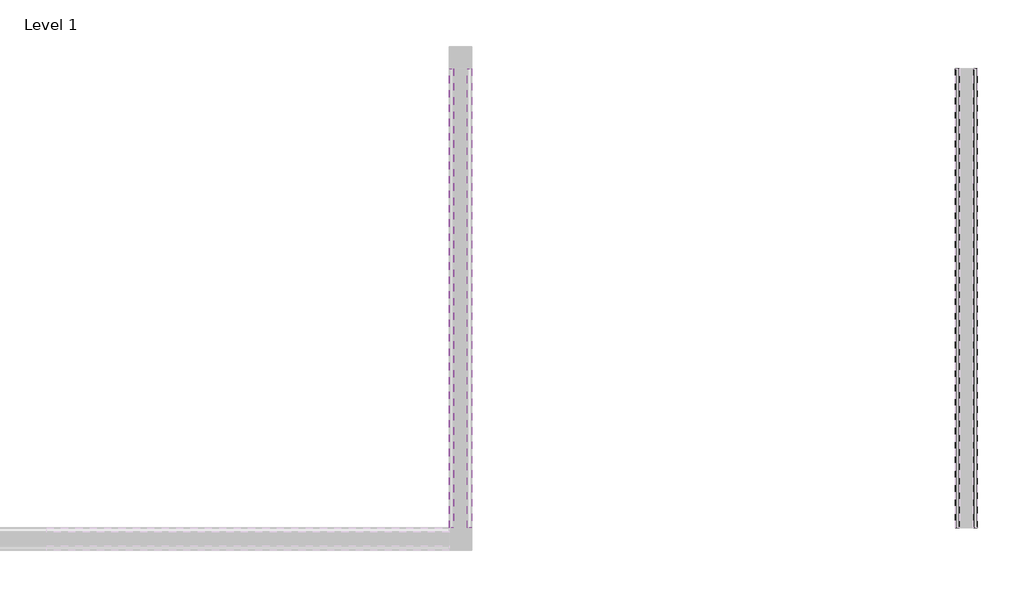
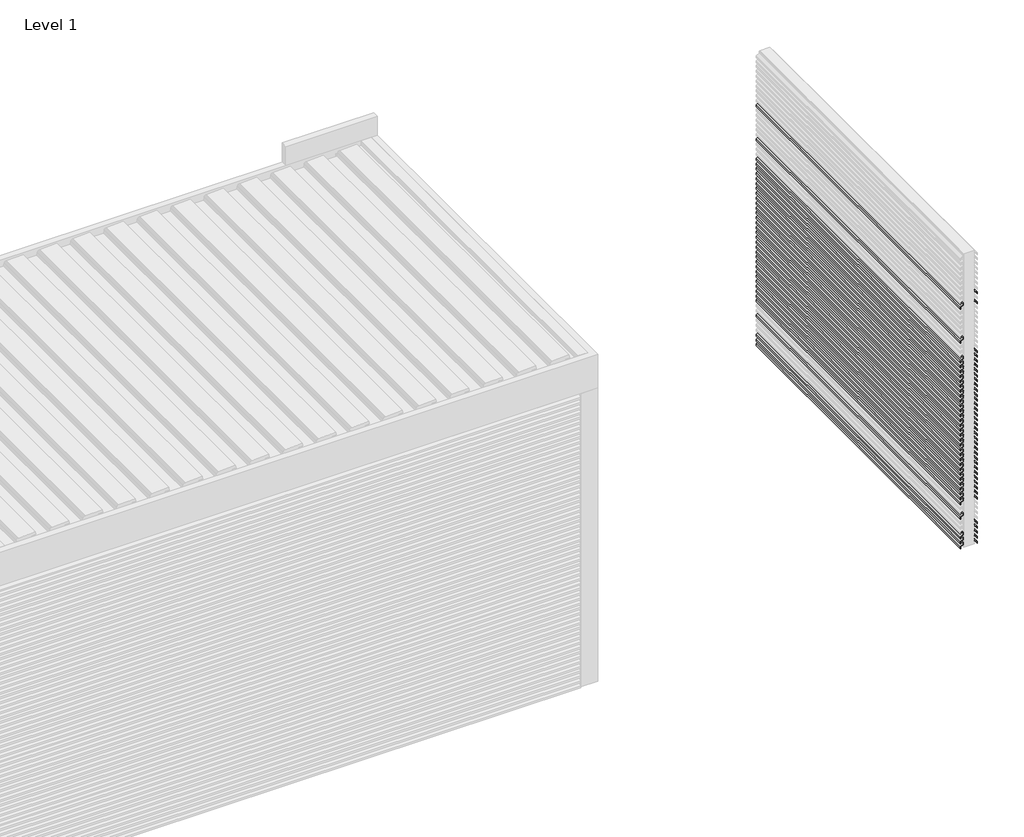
# One storey, part 44 of 47: 86 proxies.
"""IFC4 building model written with IfcOpenShell, lengths in millimetres."""

from ifc_helpers import new_model, si_unit, frame, origin, place, context, project, spatial, polyline, outline, extrude, element, save

model = new_model("IFC4")

# Units and contexts
model_context = context("Model", 3, world=origin())
ifc_project = project(units=[si_unit("LENGTHUNIT", "METRE", prefix="MILLI")], contexts=[model_context])

# Site, building, storey
site = spatial("IfcSite", under=ifc_project)
building = spatial("IfcBuilding", under=site)
storey = spatial("IfcBuildingStorey", under=building, Name="Level 1", Elevation=0.0)

# Proxies
placement = place(None, origin())
element("IfcBuildingElementProxy", 1, Name="Wall Sweeps", at=placement, inside=storey, context=model_context, shape_type="SweptSolid", body=[
    extrude(outline(polyline([(309.3, 211574.3971432), (295.8, 211574.3971432), (296.5216933, 211575.6471432), (308.5782281, 211575.6471432), (319.6345698, 211594.7971432), (333.3, 211594.7971432), (333.3, 211593.5471432), (320.3562577, 211593.5471432), (309.3, 211574.3971432)])), frame((0.0, 39632.1593685, 0.0), z_axis=(0.0, 1.0, 0.0), x_axis=(0.0, 0.0, 1.0)), (0.0, 0.0, 1.0), 2280.0),
])
element("IfcBuildingElementProxy", 2, Name="Wall Sweeps", at=placement, inside=storey, context=model_context, shape_type="SweptSolid", body=[
    extrude(outline(polyline([(741.9, 211684.3971432), (752.9562577, 211665.2471432), (765.9, 211665.2471432), (765.9, 211663.9971432), (752.2345698, 211663.9971432), (741.1782281, 211683.1471432), (729.1216933, 211683.1471432), (728.4, 211684.3971432), (741.9, 211684.3971432)])), frame((0.0, 39632.1593685, 0.0), z_axis=(0.0, 1.0, 0.0), x_axis=(0.0, 0.0, 1.0)), (0.0, 0.0, 1.0), 2280.0),
])
element("IfcBuildingElementProxy", 3, Name="Wall Sweeps", at=placement, inside=storey, context=model_context, shape_type="SweptSolid", body=[
    extrude(outline(polyline([(808.5, 211684.3971432), (819.5562577, 211665.2471432), (832.5, 211665.2471432), (832.5, 211663.9971432), (818.8345698, 211663.9971432), (807.7782281, 211683.1471432), (795.7216933, 211683.1471432), (795.0, 211684.3971432), (808.5, 211684.3971432)])), frame((0.0, 39632.1593685, 0.0), z_axis=(0.0, 1.0, 0.0), x_axis=(0.0, 0.0, 1.0)), (0.0, 0.0, 1.0), 2280.0),
])
element("IfcBuildingElementProxy", 4, Name="Wall Sweeps", at=placement, inside=storey, context=model_context, shape_type="SweptSolid", body=[
    extrude(outline(polyline([(875.1, 211684.3971432), (886.1562577, 211665.2471432), (899.1, 211665.2471432), (899.1, 211663.9971432), (885.4345698, 211663.9971432), (874.3782281, 211683.1471432), (862.3216933, 211683.1471432), (861.6, 211684.3971432), (875.1, 211684.3971432)])), frame((0.0, 39632.1593685, 0.0), z_axis=(0.0, 1.0, 0.0), x_axis=(0.0, 0.0, 1.0)), (0.0, 0.0, 1.0), 2280.0),
])
element("IfcBuildingElementProxy", 5, Name="Wall Sweeps", at=placement, inside=storey, context=model_context, shape_type="SweptSolid", body=[
    extrude(outline(polyline([(1075.9, 211574.3971432), (1062.4, 211574.3971432), (1063.1216933, 211575.6471432), (1075.1782281, 211575.6471432), (1086.2345698, 211594.7971432), (1099.9, 211594.7971432), (1099.9, 211593.5471432), (1086.9562577, 211593.5471432), (1075.9, 211574.3971432)])), frame((0.0, 39632.1593685, 0.0), z_axis=(0.0, 1.0, 0.0), x_axis=(0.0, 0.0, 1.0)), (0.0, 0.0, 1.0), 2280.0),
])
element("IfcBuildingElementProxy", 6, Name="Wall Sweeps", at=placement, inside=storey, context=model_context, shape_type="SweptSolid", body=[
    extrude(outline(polyline([(1409.2, 211574.3971432), (1395.7, 211574.3971432), (1396.4216933, 211575.6471432), (1408.4782281, 211575.6471432), (1419.5345698, 211594.7971432), (1433.2, 211594.7971432), (1433.2, 211593.5471432), (1420.2562577, 211593.5471432), (1409.2, 211574.3971432)])), frame((0.0, 39632.1593685, 0.0), z_axis=(0.0, 1.0, 0.0), x_axis=(0.0, 0.0, 1.0)), (0.0, 0.0, 1.0), 2280.0),
])
element("IfcBuildingElementProxy", 7, Name="Wall Sweeps", at=placement, inside=storey, context=model_context, shape_type="SweptSolid", body=[
    extrude(outline(polyline([(1641.0, 211684.3971432), (1652.0562577, 211665.2471432), (1665.0, 211665.2471432), (1665.0, 211663.9971432), (1651.3345698, 211663.9971432), (1640.2782281, 211683.1471432), (1628.2216933, 211683.1471432), (1627.5, 211684.3971432), (1641.0, 211684.3971432)])), frame((0.0, 39632.1593685, 0.0), z_axis=(0.0, 1.0, 0.0), x_axis=(0.0, 0.0, 1.0)), (0.0, 0.0, 1.0), 2280.0),
])
element("IfcBuildingElementProxy", 8, Name="Wall Sweeps", at=placement, inside=storey, context=model_context, shape_type="SweptSolid", body=[
    extrude(outline(polyline([(142.5, 211684.3971432), (153.5562577, 211665.2471432), (166.5, 211665.2471432), (166.5, 211663.9971432), (152.8345698, 211663.9971432), (141.7782281, 211683.1471432), (129.7216933, 211683.1471432), (129.0, 211684.3971432), (142.5, 211684.3971432)])), frame((0.0, 39632.1593685, 0.0), z_axis=(0.0, 1.0, 0.0), x_axis=(0.0, 0.0, 1.0)), (0.0, 0.0, 1.0), 2280.0),
])
element("IfcBuildingElementProxy", 9, Name="Wall Sweeps", at=placement, inside=storey, context=model_context, shape_type="SweptSolid", body=[
    extrude(outline(polyline([(1641.0, 211574.3971432), (1627.5, 211574.3971432), (1628.2216933, 211575.6471432), (1640.2782281, 211575.6471432), (1651.3345698, 211594.7971432), (1665.0, 211594.7971432), (1665.0, 211593.5471432), (1652.0562577, 211593.5471432), (1641.0, 211574.3971432)])), frame((0.0, 39632.1593685, 0.0), z_axis=(0.0, 1.0, 0.0), x_axis=(0.0, 0.0, 1.0)), (0.0, 0.0, 1.0), 2280.0),
])
element("IfcBuildingElementProxy", 10, Name="Wall Sweeps", at=placement, inside=storey, context=model_context, shape_type="SweptSolid", body=[
    extrude(outline(polyline([(1707.6, 211684.3971432), (1718.6562577, 211665.2471432), (1731.6, 211665.2471432), (1731.6, 211663.9971432), (1717.9345698, 211663.9971432), (1706.8782281, 211683.1471432), (1694.8216933, 211683.1471432), (1694.1, 211684.3971432), (1707.6, 211684.3971432)])), frame((0.0, 39632.1593685, 0.0), z_axis=(0.0, 1.0, 0.0), x_axis=(0.0, 0.0, 1.0)), (0.0, 0.0, 1.0), 2280.0),
])
element("IfcBuildingElementProxy", 11, Name="Wall Sweeps", at=placement, inside=storey, context=model_context, shape_type="SweptSolid", body=[
    extrude(outline(polyline([(209.3, 211574.3971432), (195.8, 211574.3971432), (196.5216933, 211575.6471432), (208.5782281, 211575.6471432), (219.6345698, 211594.7971432), (233.3, 211594.7971432), (233.3, 211593.5471432), (220.3562577, 211593.5471432), (209.3, 211574.3971432)])), frame((0.0, 39632.1593685, 0.0), z_axis=(0.0, 1.0, 0.0), x_axis=(0.0, 0.0, 1.0)), (0.0, 0.0, 1.0), 2280.0),
])
element("IfcBuildingElementProxy", 12, Name="Wall Sweeps", at=placement, inside=storey, context=model_context, shape_type="SweptSolid", body=[
    extrude(outline(polyline([(309.0, 211684.3971432), (320.0562577, 211665.2471432), (333.0, 211665.2471432), (333.0, 211663.9971432), (319.3345698, 211663.9971432), (308.2782281, 211683.1471432), (296.2216933, 211683.1471432), (295.5, 211684.3971432), (309.0, 211684.3971432)])), frame((0.0, 39632.1593685, 0.0), z_axis=(0.0, 1.0, 0.0), x_axis=(0.0, 0.0, 1.0)), (0.0, 0.0, 1.0), 2280.0),
])
element("IfcBuildingElementProxy", 13, Name="Wall Sweeps", at=placement, inside=storey, context=model_context, shape_type="SweptSolid", body=[
    extrude(outline(polyline([(9.3, 211684.3971432), (20.3562577, 211665.2471432), (33.3, 211665.2471432), (33.3, 211663.9971432), (19.6345698, 211663.9971432), (8.5782281, 211683.1471432), (-3.4783067, 211683.1471432), (-4.2, 211684.3971432), (9.3, 211684.3971432)])), frame((0.0, 39632.1593685, 0.0), z_axis=(0.0, 1.0, 0.0), x_axis=(0.0, 0.0, 1.0)), (0.0, 0.0, 1.0), 2280.0),
])
element("IfcBuildingElementProxy", 14, Name="Wall Sweeps", at=placement, inside=storey, context=model_context, shape_type="SweptSolid", body=[
    extrude(outline(polyline([(9.3, 211574.3971432), (-4.2, 211574.3971432), (-3.4783067, 211575.6471432), (8.5782281, 211575.6471432), (19.6345698, 211594.7971432), (33.3, 211594.7971432), (33.3, 211593.5471432), (20.3562577, 211593.5471432), (9.3, 211574.3971432)])), frame((0.0, 39632.1593685, 0.0), z_axis=(0.0, 1.0, 0.0), x_axis=(0.0, 0.0, 1.0)), (0.0, 0.0, 1.0), 2280.0),
])
element("IfcBuildingElementProxy", 15, Name="Wall Sweeps", at=placement, inside=storey, context=model_context, shape_type="SweptSolid", body=[
    extrude(outline(polyline([(342.3, 211684.3971432), (353.3562577, 211665.2471432), (366.3, 211665.2471432), (366.3, 211663.9971432), (352.6345698, 211663.9971432), (341.5782281, 211683.1471432), (329.5216933, 211683.1471432), (328.8, 211684.3971432), (342.3, 211684.3971432)])), frame((0.0, 39632.1593685, 0.0), z_axis=(0.0, 1.0, 0.0), x_axis=(0.0, 0.0, 1.0)), (0.0, 0.0, 1.0), 2280.0),
])
element("IfcBuildingElementProxy", 16, Name="Wall Sweeps", at=placement, inside=storey, context=model_context, shape_type="SweptSolid", body=[
    extrude(outline(polyline([(342.6, 211574.3971432), (329.1, 211574.3971432), (329.8216933, 211575.6471432), (341.8782281, 211575.6471432), (352.9345698, 211594.7971432), (366.6, 211594.7971432), (366.6, 211593.5471432), (353.6562577, 211593.5471432), (342.6, 211574.3971432)])), frame((0.0, 39632.1593685, 0.0), z_axis=(0.0, 1.0, 0.0), x_axis=(0.0, 0.0, 1.0)), (0.0, 0.0, 1.0), 2280.0),
])
element("IfcBuildingElementProxy", 17, Name="Wall Sweeps", at=placement, inside=storey, context=model_context, shape_type="SweptSolid", body=[
    extrude(outline(polyline([(375.6, 211684.3971432), (386.6562577, 211665.2471432), (399.6, 211665.2471432), (399.6, 211663.9971432), (385.9345698, 211663.9971432), (374.8782281, 211683.1471432), (362.8216933, 211683.1471432), (362.1, 211684.3971432), (375.6, 211684.3971432)])), frame((0.0, 39632.1593685, 0.0), z_axis=(0.0, 1.0, 0.0), x_axis=(0.0, 0.0, 1.0)), (0.0, 0.0, 1.0), 2280.0),
])
element("IfcBuildingElementProxy", 18, Name="Wall Sweeps", at=placement, inside=storey, context=model_context, shape_type="SweptSolid", body=[
    extrude(outline(polyline([(376.0, 211574.3971432), (362.5, 211574.3971432), (363.2216933, 211575.6471432), (375.2782281, 211575.6471432), (386.3345698, 211594.7971432), (400.0, 211594.7971432), (400.0, 211593.5471432), (387.0562577, 211593.5471432), (376.0, 211574.3971432)])), frame((0.0, 39632.1593685, 0.0), z_axis=(0.0, 1.0, 0.0), x_axis=(0.0, 0.0, 1.0)), (0.0, 0.0, 1.0), 2280.0),
])
element("IfcBuildingElementProxy", 19, Name="Wall Sweeps", at=placement, inside=storey, context=model_context, shape_type="SweptSolid", body=[
    extrude(outline(polyline([(408.9, 211684.3971432), (419.9562577, 211665.2471432), (432.9, 211665.2471432), (432.9, 211663.9971432), (419.2345698, 211663.9971432), (408.1782281, 211683.1471432), (396.1216933, 211683.1471432), (395.4, 211684.3971432), (408.9, 211684.3971432)])), frame((0.0, 39632.1593685, 0.0), z_axis=(0.0, 1.0, 0.0), x_axis=(0.0, 0.0, 1.0)), (0.0, 0.0, 1.0), 2280.0),
])
element("IfcBuildingElementProxy", 20, Name="Wall Sweeps", at=placement, inside=storey, context=model_context, shape_type="SweptSolid", body=[
    extrude(outline(polyline([(409.3, 211574.3971432), (395.8, 211574.3971432), (396.5216933, 211575.6471432), (408.5782281, 211575.6471432), (419.6345698, 211594.7971432), (433.3, 211594.7971432), (433.3, 211593.5471432), (420.3562577, 211593.5471432), (409.3, 211574.3971432)])), frame((0.0, 39632.1593685, 0.0), z_axis=(0.0, 1.0, 0.0), x_axis=(0.0, 0.0, 1.0)), (0.0, 0.0, 1.0), 2280.0),
])
element("IfcBuildingElementProxy", 21, Name="Wall Sweeps", at=placement, inside=storey, context=model_context, shape_type="SweptSolid", body=[
    extrude(outline(polyline([(442.2, 211684.3971432), (453.2562577, 211665.2471432), (466.2, 211665.2471432), (466.2, 211663.9971432), (452.5345698, 211663.9971432), (441.4782281, 211683.1471432), (429.4216933, 211683.1471432), (428.7, 211684.3971432), (442.2, 211684.3971432)])), frame((0.0, 39632.1593685, 0.0), z_axis=(0.0, 1.0, 0.0), x_axis=(0.0, 0.0, 1.0)), (0.0, 0.0, 1.0), 2280.0),
])
element("IfcBuildingElementProxy", 22, Name="Wall Sweeps", at=placement, inside=storey, context=model_context, shape_type="SweptSolid", body=[
    extrude(outline(polyline([(442.6, 211574.3971432), (429.1, 211574.3971432), (429.8216933, 211575.6471432), (441.8782281, 211575.6471432), (452.9345698, 211594.7971432), (466.6, 211594.7971432), (466.6, 211593.5471432), (453.6562577, 211593.5471432), (442.6, 211574.3971432)])), frame((0.0, 39632.1593685, 0.0), z_axis=(0.0, 1.0, 0.0), x_axis=(0.0, 0.0, 1.0)), (0.0, 0.0, 1.0), 2280.0),
])
element("IfcBuildingElementProxy", 23, Name="Wall Sweeps", at=placement, inside=storey, context=model_context, shape_type="SweptSolid", body=[
    extrude(outline(polyline([(475.5, 211684.3971432), (486.5562577, 211665.2471432), (499.5, 211665.2471432), (499.5, 211663.9971432), (485.8345698, 211663.9971432), (474.7782281, 211683.1471432), (462.7216933, 211683.1471432), (462.0, 211684.3971432), (475.5, 211684.3971432)])), frame((0.0, 39632.1593685, 0.0), z_axis=(0.0, 1.0, 0.0), x_axis=(0.0, 0.0, 1.0)), (0.0, 0.0, 1.0), 2280.0),
])
element("IfcBuildingElementProxy", 24, Name="Wall Sweeps", at=placement, inside=storey, context=model_context, shape_type="SweptSolid", body=[
    extrude(outline(polyline([(476.0, 211574.3971432), (462.5, 211574.3971432), (463.2216933, 211575.6471432), (475.2782281, 211575.6471432), (486.3345698, 211594.7971432), (500.0, 211594.7971432), (500.0, 211593.5471432), (487.0562577, 211593.5471432), (476.0, 211574.3971432)])), frame((0.0, 39632.1593685, 0.0), z_axis=(0.0, 1.0, 0.0), x_axis=(0.0, 0.0, 1.0)), (0.0, 0.0, 1.0), 2280.0),
])
element("IfcBuildingElementProxy", 25, Name="Wall Sweeps", at=placement, inside=storey, context=model_context, shape_type="SweptSolid", body=[
    extrude(outline(polyline([(508.8, 211684.3971432), (519.8562577, 211665.2471432), (532.8, 211665.2471432), (532.8, 211663.9971432), (519.1345698, 211663.9971432), (508.0782281, 211683.1471432), (496.0216933, 211683.1471432), (495.3, 211684.3971432), (508.8, 211684.3971432)])), frame((0.0, 39632.1593685, 0.0), z_axis=(0.0, 1.0, 0.0), x_axis=(0.0, 0.0, 1.0)), (0.0, 0.0, 1.0), 2280.0),
])
element("IfcBuildingElementProxy", 26, Name="Wall Sweeps", at=placement, inside=storey, context=model_context, shape_type="SweptSolid", body=[
    extrude(outline(polyline([(509.3, 211574.3971432), (495.8, 211574.3971432), (496.5216933, 211575.6471432), (508.5782281, 211575.6471432), (519.6345698, 211594.7971432), (533.3, 211594.7971432), (533.3, 211593.5471432), (520.3562577, 211593.5471432), (509.3, 211574.3971432)])), frame((0.0, 39632.1593685, 0.0), z_axis=(0.0, 1.0, 0.0), x_axis=(0.0, 0.0, 1.0)), (0.0, 0.0, 1.0), 2280.0),
])
element("IfcBuildingElementProxy", 27, Name="Wall Sweeps", at=placement, inside=storey, context=model_context, shape_type="SweptSolid", body=[
    extrude(outline(polyline([(542.1, 211684.3971432), (553.1562577, 211665.2471432), (566.1, 211665.2471432), (566.1, 211663.9971432), (552.4345698, 211663.9971432), (541.3782281, 211683.1471432), (529.3216933, 211683.1471432), (528.6, 211684.3971432), (542.1, 211684.3971432)])), frame((0.0, 39632.1593685, 0.0), z_axis=(0.0, 1.0, 0.0), x_axis=(0.0, 0.0, 1.0)), (0.0, 0.0, 1.0), 2280.0),
])
element("IfcBuildingElementProxy", 28, Name="Wall Sweeps", at=placement, inside=storey, context=model_context, shape_type="SweptSolid", body=[
    extrude(outline(polyline([(542.6, 211574.3971432), (529.1, 211574.3971432), (529.8216933, 211575.6471432), (541.8782281, 211575.6471432), (552.9345698, 211594.7971432), (566.6, 211594.7971432), (566.6, 211593.5471432), (553.6562577, 211593.5471432), (542.6, 211574.3971432)])), frame((0.0, 39632.1593685, 0.0), z_axis=(0.0, 1.0, 0.0), x_axis=(0.0, 0.0, 1.0)), (0.0, 0.0, 1.0), 2280.0),
])
element("IfcBuildingElementProxy", 29, Name="Wall Sweeps", at=placement, inside=storey, context=model_context, shape_type="SweptSolid", body=[
    extrude(outline(polyline([(575.4, 211684.3971432), (586.4562577, 211665.2471432), (599.4, 211665.2471432), (599.4, 211663.9971432), (585.7345698, 211663.9971432), (574.6782281, 211683.1471432), (562.6216933, 211683.1471432), (561.9, 211684.3971432), (575.4, 211684.3971432)])), frame((0.0, 39632.1593685, 0.0), z_axis=(0.0, 1.0, 0.0), x_axis=(0.0, 0.0, 1.0)), (0.0, 0.0, 1.0), 2280.0),
])
element("IfcBuildingElementProxy", 30, Name="Wall Sweeps", at=placement, inside=storey, context=model_context, shape_type="SweptSolid", body=[
    extrude(outline(polyline([(575.9, 211574.3971432), (562.4, 211574.3971432), (563.1216933, 211575.6471432), (575.1782281, 211575.6471432), (586.2345698, 211594.7971432), (599.9, 211594.7971432), (599.9, 211593.5471432), (586.9562577, 211593.5471432), (575.9, 211574.3971432)])), frame((0.0, 39632.1593685, 0.0), z_axis=(0.0, 1.0, 0.0), x_axis=(0.0, 0.0, 1.0)), (0.0, 0.0, 1.0), 2280.0),
])
element("IfcBuildingElementProxy", 31, Name="Wall Sweeps", at=placement, inside=storey, context=model_context, shape_type="SweptSolid", body=[
    extrude(outline(polyline([(608.7, 211684.3971432), (619.7562577, 211665.2471432), (632.7, 211665.2471432), (632.7, 211663.9971432), (619.0345698, 211663.9971432), (607.9782281, 211683.1471432), (595.9216933, 211683.1471432), (595.2, 211684.3971432), (608.7, 211684.3971432)])), frame((0.0, 39632.1593685, 0.0), z_axis=(0.0, 1.0, 0.0), x_axis=(0.0, 0.0, 1.0)), (0.0, 0.0, 1.0), 2280.0),
])
element("IfcBuildingElementProxy", 32, Name="Wall Sweeps", at=placement, inside=storey, context=model_context, shape_type="SweptSolid", body=[
    extrude(outline(polyline([(609.3, 211574.3971432), (595.8, 211574.3971432), (596.5216933, 211575.6471432), (608.5782281, 211575.6471432), (619.6345698, 211594.7971432), (633.3, 211594.7971432), (633.3, 211593.5471432), (620.3562577, 211593.5471432), (609.3, 211574.3971432)])), frame((0.0, 39632.1593685, 0.0), z_axis=(0.0, 1.0, 0.0), x_axis=(0.0, 0.0, 1.0)), (0.0, 0.0, 1.0), 2280.0),
])
element("IfcBuildingElementProxy", 33, Name="Wall Sweeps", at=placement, inside=storey, context=model_context, shape_type="SweptSolid", body=[
    extrude(outline(polyline([(642.0, 211684.3971432), (653.0562577, 211665.2471432), (666.0, 211665.2471432), (666.0, 211663.9971432), (652.3345698, 211663.9971432), (641.2782281, 211683.1471432), (629.2216933, 211683.1471432), (628.5, 211684.3971432), (642.0, 211684.3971432)])), frame((0.0, 39632.1593685, 0.0), z_axis=(0.0, 1.0, 0.0), x_axis=(0.0, 0.0, 1.0)), (0.0, 0.0, 1.0), 2280.0),
])
element("IfcBuildingElementProxy", 34, Name="Wall Sweeps", at=placement, inside=storey, context=model_context, shape_type="SweptSolid", body=[
    extrude(outline(polyline([(42.6, 211684.3971432), (53.6562577, 211665.2471432), (66.6, 211665.2471432), (66.6, 211663.9971432), (52.9345698, 211663.9971432), (41.8782281, 211683.1471432), (29.8216933, 211683.1471432), (29.1, 211684.3971432), (42.6, 211684.3971432)])), frame((0.0, 39632.1593685, 0.0), z_axis=(0.0, 1.0, 0.0), x_axis=(0.0, 0.0, 1.0)), (0.0, 0.0, 1.0), 2280.0),
])
element("IfcBuildingElementProxy", 35, Name="Wall Sweeps", at=placement, inside=storey, context=model_context, shape_type="SweptSolid", body=[
    extrude(outline(polyline([(642.6, 211574.3971432), (629.1, 211574.3971432), (629.8216933, 211575.6471432), (641.8782281, 211575.6471432), (652.9345698, 211594.7971432), (666.6, 211594.7971432), (666.6, 211593.5471432), (653.6562577, 211593.5471432), (642.6, 211574.3971432)])), frame((0.0, 39632.1593685, 0.0), z_axis=(0.0, 1.0, 0.0), x_axis=(0.0, 0.0, 1.0)), (0.0, 0.0, 1.0), 2280.0),
])
element("IfcBuildingElementProxy", 36, Name="Wall Sweeps", at=placement, inside=storey, context=model_context, shape_type="SweptSolid", body=[
    extrude(outline(polyline([(42.7, 211574.3971432), (29.2, 211574.3971432), (29.9216933, 211575.6471432), (41.9782281, 211575.6471432), (53.0345698, 211594.7971432), (66.7, 211594.7971432), (66.7, 211593.5471432), (53.7562577, 211593.5471432), (42.7, 211574.3971432)])), frame((0.0, 39632.1593685, 0.0), z_axis=(0.0, 1.0, 0.0), x_axis=(0.0, 0.0, 1.0)), (0.0, 0.0, 1.0), 2280.0),
])
element("IfcBuildingElementProxy", 37, Name="Wall Sweeps", at=placement, inside=storey, context=model_context, shape_type="SweptSolid", body=[
    extrude(outline(polyline([(675.3, 211684.3971432), (686.3562577, 211665.2471432), (699.3, 211665.2471432), (699.3, 211663.9971432), (685.6345698, 211663.9971432), (674.5782281, 211683.1471432), (662.5216933, 211683.1471432), (661.8, 211684.3971432), (675.3, 211684.3971432)])), frame((0.0, 39632.1593685, 0.0), z_axis=(0.0, 1.0, 0.0), x_axis=(0.0, 0.0, 1.0)), (0.0, 0.0, 1.0), 2280.0),
])
element("IfcBuildingElementProxy", 38, Name="Wall Sweeps", at=placement, inside=storey, context=model_context, shape_type="SweptSolid", body=[
    extrude(outline(polyline([(675.9, 211574.3971432), (662.4, 211574.3971432), (663.1216933, 211575.6471432), (675.1782281, 211575.6471432), (686.2345698, 211594.7971432), (699.9, 211594.7971432), (699.9, 211593.5471432), (686.9562577, 211593.5471432), (675.9, 211574.3971432)])), frame((0.0, 39632.1593685, 0.0), z_axis=(0.0, 1.0, 0.0), x_axis=(0.0, 0.0, 1.0)), (0.0, 0.0, 1.0), 2280.0),
])
element("IfcBuildingElementProxy", 39, Name="Wall Sweeps", at=placement, inside=storey, context=model_context, shape_type="SweptSolid", body=[
    extrude(outline(polyline([(708.6, 211684.3971432), (719.6562577, 211665.2471432), (732.6, 211665.2471432), (732.6, 211663.9971432), (718.9345698, 211663.9971432), (707.8782281, 211683.1471432), (695.8216933, 211683.1471432), (695.1, 211684.3971432), (708.6, 211684.3971432)])), frame((0.0, 39632.1593685, 0.0), z_axis=(0.0, 1.0, 0.0), x_axis=(0.0, 0.0, 1.0)), (0.0, 0.0, 1.0), 2280.0),
])
element("IfcBuildingElementProxy", 40, Name="Wall Sweeps", at=placement, inside=storey, context=model_context, shape_type="SweptSolid", body=[
    extrude(outline(polyline([(709.3, 211574.3971432), (695.8, 211574.3971432), (696.5216933, 211575.6471432), (708.5782281, 211575.6471432), (719.6345698, 211594.7971432), (733.3, 211594.7971432), (733.3, 211593.5471432), (720.3562577, 211593.5471432), (709.3, 211574.3971432)])), frame((0.0, 39632.1593685, 0.0), z_axis=(0.0, 1.0, 0.0), x_axis=(0.0, 0.0, 1.0)), (0.0, 0.0, 1.0), 2280.0),
])
element("IfcBuildingElementProxy", 41, Name="Wall Sweeps", at=placement, inside=storey, context=model_context, shape_type="SweptSolid", body=[
    extrude(outline(polyline([(742.6, 211574.3971432), (729.1, 211574.3971432), (729.8216933, 211575.6471432), (741.8782281, 211575.6471432), (752.9345698, 211594.7971432), (766.6, 211594.7971432), (766.6, 211593.5471432), (753.6562577, 211593.5471432), (742.6, 211574.3971432)])), frame((0.0, 39632.1593685, 0.0), z_axis=(0.0, 1.0, 0.0), x_axis=(0.0, 0.0, 1.0)), (0.0, 0.0, 1.0), 2280.0),
])
element("IfcBuildingElementProxy", 42, Name="Wall Sweeps", at=placement, inside=storey, context=model_context, shape_type="SweptSolid", body=[
    extrude(outline(polyline([(775.2, 211684.3971432), (786.2562577, 211665.2471432), (799.2, 211665.2471432), (799.2, 211663.9971432), (785.5345698, 211663.9971432), (774.4782281, 211683.1471432), (762.4216933, 211683.1471432), (761.7, 211684.3971432), (775.2, 211684.3971432)])), frame((0.0, 39632.1593685, 0.0), z_axis=(0.0, 1.0, 0.0), x_axis=(0.0, 0.0, 1.0)), (0.0, 0.0, 1.0), 2280.0),
])
element("IfcBuildingElementProxy", 43, Name="Wall Sweeps", at=placement, inside=storey, context=model_context, shape_type="SweptSolid", body=[
    extrude(outline(polyline([(775.9, 211574.3971432), (762.4, 211574.3971432), (763.1216933, 211575.6471432), (775.1782281, 211575.6471432), (786.2345698, 211594.7971432), (799.9, 211594.7971432), (799.9, 211593.5471432), (786.9562577, 211593.5471432), (775.9, 211574.3971432)])), frame((0.0, 39632.1593685, 0.0), z_axis=(0.0, 1.0, 0.0), x_axis=(0.0, 0.0, 1.0)), (0.0, 0.0, 1.0), 2280.0),
])
element("IfcBuildingElementProxy", 44, Name="Wall Sweeps", at=placement, inside=storey, context=model_context, shape_type="SweptSolid", body=[
    extrude(outline(polyline([(809.3, 211574.3971432), (795.8, 211574.3971432), (796.5216933, 211575.6471432), (808.5782281, 211575.6471432), (819.6345698, 211594.7971432), (833.3, 211594.7971432), (833.3, 211593.5471432), (820.3562577, 211593.5471432), (809.3, 211574.3971432)])), frame((0.0, 39632.1593685, 0.0), z_axis=(0.0, 1.0, 0.0), x_axis=(0.0, 0.0, 1.0)), (0.0, 0.0, 1.0), 2280.0),
])
element("IfcBuildingElementProxy", 45, Name="Wall Sweeps", at=placement, inside=storey, context=model_context, shape_type="SweptSolid", body=[
    extrude(outline(polyline([(841.8, 211684.3971432), (852.8562577, 211665.2471432), (865.8, 211665.2471432), (865.8, 211663.9971432), (852.1345698, 211663.9971432), (841.0782281, 211683.1471432), (829.0216933, 211683.1471432), (828.3, 211684.3971432), (841.8, 211684.3971432)])), frame((0.0, 39632.1593685, 0.0), z_axis=(0.0, 1.0, 0.0), x_axis=(0.0, 0.0, 1.0)), (0.0, 0.0, 1.0), 2280.0),
])
element("IfcBuildingElementProxy", 46, Name="Wall Sweeps", at=placement, inside=storey, context=model_context, shape_type="SweptSolid", body=[
    extrude(outline(polyline([(842.6, 211574.3971432), (829.1, 211574.3971432), (829.8216933, 211575.6471432), (841.8782281, 211575.6471432), (852.9345698, 211594.7971432), (866.6, 211594.7971432), (866.6, 211593.5471432), (853.6562577, 211593.5471432), (842.6, 211574.3971432)])), frame((0.0, 39632.1593685, 0.0), z_axis=(0.0, 1.0, 0.0), x_axis=(0.0, 0.0, 1.0)), (0.0, 0.0, 1.0), 2280.0),
])
element("IfcBuildingElementProxy", 47, Name="Wall Sweeps", at=placement, inside=storey, context=model_context, shape_type="SweptSolid", body=[
    extrude(outline(polyline([(875.9, 211574.3971432), (862.4, 211574.3971432), (863.1216933, 211575.6471432), (875.1782281, 211575.6471432), (886.2345698, 211594.7971432), (899.9, 211594.7971432), (899.9, 211593.5471432), (886.9562577, 211593.5471432), (875.9, 211574.3971432)])), frame((0.0, 39632.1593685, 0.0), z_axis=(0.0, 1.0, 0.0), x_axis=(0.0, 0.0, 1.0)), (0.0, 0.0, 1.0), 2280.0),
])
element("IfcBuildingElementProxy", 48, Name="Wall Sweeps", at=placement, inside=storey, context=model_context, shape_type="SweptSolid", body=[
    extrude(outline(polyline([(908.4, 211684.3971432), (919.4562577, 211665.2471432), (932.4, 211665.2471432), (932.4, 211663.9971432), (918.7345698, 211663.9971432), (907.6782281, 211683.1471432), (895.6216933, 211683.1471432), (894.9, 211684.3971432), (908.4, 211684.3971432)])), frame((0.0, 39632.1593685, 0.0), z_axis=(0.0, 1.0, 0.0), x_axis=(0.0, 0.0, 1.0)), (0.0, 0.0, 1.0), 2280.0),
])
element("IfcBuildingElementProxy", 49, Name="Wall Sweeps", at=placement, inside=storey, context=model_context, shape_type="SweptSolid", body=[
    extrude(outline(polyline([(909.2, 211574.3971432), (895.7, 211574.3971432), (896.4216933, 211575.6471432), (908.4782281, 211575.6471432), (919.5345698, 211594.7971432), (933.2, 211594.7971432), (933.2, 211593.5471432), (920.2562577, 211593.5471432), (909.2, 211574.3971432)])), frame((0.0, 39632.1593685, 0.0), z_axis=(0.0, 1.0, 0.0), x_axis=(0.0, 0.0, 1.0)), (0.0, 0.0, 1.0), 2280.0),
])
element("IfcBuildingElementProxy", 50, Name="Wall Sweeps", at=placement, inside=storey, context=model_context, shape_type="SweptSolid", body=[
    extrude(outline(polyline([(941.7, 211684.3971432), (952.7562577, 211665.2471432), (965.7, 211665.2471432), (965.7, 211663.9971432), (952.0345698, 211663.9971432), (940.9782281, 211683.1471432), (928.9216933, 211683.1471432), (928.2, 211684.3971432), (941.7, 211684.3971432)])), frame((0.0, 39632.1593685, 0.0), z_axis=(0.0, 1.0, 0.0), x_axis=(0.0, 0.0, 1.0)), (0.0, 0.0, 1.0), 2280.0),
])
element("IfcBuildingElementProxy", 51, Name="Wall Sweeps", at=placement, inside=storey, context=model_context, shape_type="SweptSolid", body=[
    extrude(outline(polyline([(942.6, 211574.3971432), (929.1, 211574.3971432), (929.8216933, 211575.6471432), (941.8782281, 211575.6471432), (952.9345698, 211594.7971432), (966.6, 211594.7971432), (966.6, 211593.5471432), (953.6562577, 211593.5471432), (942.6, 211574.3971432)])), frame((0.0, 39632.1593685, 0.0), z_axis=(0.0, 1.0, 0.0), x_axis=(0.0, 0.0, 1.0)), (0.0, 0.0, 1.0), 2280.0),
])
element("IfcBuildingElementProxy", 52, Name="Wall Sweeps", at=placement, inside=storey, context=model_context, shape_type="SweptSolid", body=[
    extrude(outline(polyline([(975.0, 211684.3971432), (986.0562577, 211665.2471432), (999.0, 211665.2471432), (999.0, 211663.9971432), (985.3345698, 211663.9971432), (974.2782281, 211683.1471432), (962.2216933, 211683.1471432), (961.5, 211684.3971432), (975.0, 211684.3971432)])), frame((0.0, 39632.1593685, 0.0), z_axis=(0.0, 1.0, 0.0), x_axis=(0.0, 0.0, 1.0)), (0.0, 0.0, 1.0), 2280.0),
])
element("IfcBuildingElementProxy", 53, Name="Wall Sweeps", at=placement, inside=storey, context=model_context, shape_type="SweptSolid", body=[
    extrude(outline(polyline([(975.9, 211574.3971432), (962.4, 211574.3971432), (963.1216933, 211575.6471432), (975.1782281, 211575.6471432), (986.2345698, 211594.7971432), (999.9, 211594.7971432), (999.9, 211593.5471432), (986.9562577, 211593.5471432), (975.9, 211574.3971432)])), frame((0.0, 39632.1593685, 0.0), z_axis=(0.0, 1.0, 0.0), x_axis=(0.0, 0.0, 1.0)), (0.0, 0.0, 1.0), 2280.0),
])
element("IfcBuildingElementProxy", 54, Name="Wall Sweeps", at=placement, inside=storey, context=model_context, shape_type="SweptSolid", body=[
    extrude(outline(polyline([(76.0, 211684.3971432), (87.0562577, 211665.2471432), (100.0, 211665.2471432), (100.0, 211663.9971432), (86.3345698, 211663.9971432), (75.2782281, 211683.1471432), (63.2216933, 211683.1471432), (62.5, 211684.3971432), (76.0, 211684.3971432)])), frame((0.0, 39632.1593685, 0.0), z_axis=(0.0, 1.0, 0.0), x_axis=(0.0, 0.0, 1.0)), (0.0, 0.0, 1.0), 2280.0),
])
element("IfcBuildingElementProxy", 55, Name="Wall Sweeps", at=placement, inside=storey, context=model_context, shape_type="SweptSolid", body=[
    extrude(outline(polyline([(76.0, 211574.3971432), (62.5, 211574.3971432), (63.2216933, 211575.6471432), (75.2782281, 211575.6471432), (86.3345698, 211594.7971432), (100.0, 211594.7971432), (100.0, 211593.5471432), (87.0562577, 211593.5471432), (76.0, 211574.3971432)])), frame((0.0, 39632.1593685, 0.0), z_axis=(0.0, 1.0, 0.0), x_axis=(0.0, 0.0, 1.0)), (0.0, 0.0, 1.0), 2280.0),
])
element("IfcBuildingElementProxy", 56, Name="Wall Sweeps", at=placement, inside=storey, context=model_context, shape_type="SweptSolid", body=[
    extrude(outline(polyline([(1008.3, 211684.3971432), (1019.3562577, 211665.2471432), (1032.3, 211665.2471432), (1032.3, 211663.9971432), (1018.6345698, 211663.9971432), (1007.5782281, 211683.1471432), (995.5216933, 211683.1471432), (994.8, 211684.3971432), (1008.3, 211684.3971432)])), frame((0.0, 39632.1593685, 0.0), z_axis=(0.0, 1.0, 0.0), x_axis=(0.0, 0.0, 1.0)), (0.0, 0.0, 1.0), 2280.0),
])
element("IfcBuildingElementProxy", 57, Name="Wall Sweeps", at=placement, inside=storey, context=model_context, shape_type="SweptSolid", body=[
    extrude(outline(polyline([(1009.2, 211574.3971432), (995.7, 211574.3971432), (996.4216933, 211575.6471432), (1008.4782281, 211575.6471432), (1019.5345698, 211594.7971432), (1033.2, 211594.7971432), (1033.2, 211593.5471432), (1020.2562577, 211593.5471432), (1009.2, 211574.3971432)])), frame((0.0, 39632.1593685, 0.0), z_axis=(0.0, 1.0, 0.0), x_axis=(0.0, 0.0, 1.0)), (0.0, 0.0, 1.0), 2280.0),
])
element("IfcBuildingElementProxy", 58, Name="Wall Sweeps", at=placement, inside=storey, context=model_context, shape_type="SweptSolid", body=[
    extrude(outline(polyline([(1041.6, 211684.3971432), (1052.6562577, 211665.2471432), (1065.6, 211665.2471432), (1065.6, 211663.9971432), (1051.9345698, 211663.9971432), (1040.8782281, 211683.1471432), (1028.8216933, 211683.1471432), (1028.1, 211684.3971432), (1041.6, 211684.3971432)])), frame((0.0, 39632.1593685, 0.0), z_axis=(0.0, 1.0, 0.0), x_axis=(0.0, 0.0, 1.0)), (0.0, 0.0, 1.0), 2280.0),
])
element("IfcBuildingElementProxy", 59, Name="Wall Sweeps", at=placement, inside=storey, context=model_context, shape_type="SweptSolid", body=[
    extrude(outline(polyline([(1042.6, 211574.3971432), (1029.1, 211574.3971432), (1029.8216933, 211575.6471432), (1041.8782281, 211575.6471432), (1052.9345698, 211594.7971432), (1066.6, 211594.7971432), (1066.6, 211593.5471432), (1053.6562577, 211593.5471432), (1042.6, 211574.3971432)])), frame((0.0, 39632.1593685, 0.0), z_axis=(0.0, 1.0, 0.0), x_axis=(0.0, 0.0, 1.0)), (0.0, 0.0, 1.0), 2280.0),
])
element("IfcBuildingElementProxy", 60, Name="Wall Sweeps", at=placement, inside=storey, context=model_context, shape_type="SweptSolid", body=[
    extrude(outline(polyline([(1074.9, 211684.3971432), (1085.9562577, 211665.2471432), (1098.9, 211665.2471432), (1098.9, 211663.9971432), (1085.2345698, 211663.9971432), (1074.1782281, 211683.1471432), (1062.1216933, 211683.1471432), (1061.4, 211684.3971432), (1074.9, 211684.3971432)])), frame((0.0, 39632.1593685, 0.0), z_axis=(0.0, 1.0, 0.0), x_axis=(0.0, 0.0, 1.0)), (0.0, 0.0, 1.0), 2280.0),
])
element("IfcBuildingElementProxy", 61, Name="Wall Sweeps", at=placement, inside=storey, context=model_context, shape_type="SweptSolid", body=[
    extrude(outline(polyline([(1108.2, 211684.3971432), (1119.2562577, 211665.2471432), (1132.2, 211665.2471432), (1132.2, 211663.9971432), (1118.5345698, 211663.9971432), (1107.4782281, 211683.1471432), (1095.4216933, 211683.1471432), (1094.7, 211684.3971432), (1108.2, 211684.3971432)])), frame((0.0, 39632.1593685, 0.0), z_axis=(0.0, 1.0, 0.0), x_axis=(0.0, 0.0, 1.0)), (0.0, 0.0, 1.0), 2280.0),
])
element("IfcBuildingElementProxy", 62, Name="Wall Sweeps", at=placement, inside=storey, context=model_context, shape_type="SweptSolid", body=[
    extrude(outline(polyline([(1109.2, 211574.3971432), (1095.7, 211574.3971432), (1096.4216933, 211575.6471432), (1108.4782281, 211575.6471432), (1119.5345698, 211594.7971432), (1133.2, 211594.7971432), (1133.2, 211593.5471432), (1120.2562577, 211593.5471432), (1109.2, 211574.3971432)])), frame((0.0, 39632.1593685, 0.0), z_axis=(0.0, 1.0, 0.0), x_axis=(0.0, 0.0, 1.0)), (0.0, 0.0, 1.0), 2280.0),
])
element("IfcBuildingElementProxy", 63, Name="Wall Sweeps", at=placement, inside=storey, context=model_context, shape_type="SweptSolid", body=[
    extrude(outline(polyline([(1141.5, 211684.3971432), (1152.5562577, 211665.2471432), (1165.5, 211665.2471432), (1165.5, 211663.9971432), (1151.8345698, 211663.9971432), (1140.7782281, 211683.1471432), (1128.7216933, 211683.1471432), (1128.0, 211684.3971432), (1141.5, 211684.3971432)])), frame((0.0, 39632.1593685, 0.0), z_axis=(0.0, 1.0, 0.0), x_axis=(0.0, 0.0, 1.0)), (0.0, 0.0, 1.0), 2280.0),
])
element("IfcBuildingElementProxy", 64, Name="Wall Sweeps", at=placement, inside=storey, context=model_context, shape_type="SweptSolid", body=[
    extrude(outline(polyline([(1142.6, 211574.3971432), (1129.1, 211574.3971432), (1129.8216933, 211575.6471432), (1141.8782281, 211575.6471432), (1152.9345698, 211594.7971432), (1166.6, 211594.7971432), (1166.6, 211593.5471432), (1153.6562577, 211593.5471432), (1142.6, 211574.3971432)])), frame((0.0, 39632.1593685, 0.0), z_axis=(0.0, 1.0, 0.0), x_axis=(0.0, 0.0, 1.0)), (0.0, 0.0, 1.0), 2280.0),
])
element("IfcBuildingElementProxy", 65, Name="Wall Sweeps", at=placement, inside=storey, context=model_context, shape_type="SweptSolid", body=[
    extrude(outline(polyline([(1174.8, 211684.3971432), (1185.8562577, 211665.2471432), (1198.8, 211665.2471432), (1198.8, 211663.9971432), (1185.1345698, 211663.9971432), (1174.0782281, 211683.1471432), (1162.0216933, 211683.1471432), (1161.3, 211684.3971432), (1174.8, 211684.3971432)])), frame((0.0, 39632.1593685, 0.0), z_axis=(0.0, 1.0, 0.0), x_axis=(0.0, 0.0, 1.0)), (0.0, 0.0, 1.0), 2280.0),
])
element("IfcBuildingElementProxy", 66, Name="Wall Sweeps", at=placement, inside=storey, context=model_context, shape_type="SweptSolid", body=[
    extrude(outline(polyline([(1175.9, 211574.3971432), (1162.4, 211574.3971432), (1163.1216933, 211575.6471432), (1175.1782281, 211575.6471432), (1186.2345698, 211594.7971432), (1199.9, 211594.7971432), (1199.9, 211593.5471432), (1186.9562577, 211593.5471432), (1175.9, 211574.3971432)])), frame((0.0, 39632.1593685, 0.0), z_axis=(0.0, 1.0, 0.0), x_axis=(0.0, 0.0, 1.0)), (0.0, 0.0, 1.0), 2280.0),
])
element("IfcBuildingElementProxy", 67, Name="Wall Sweeps", at=placement, inside=storey, context=model_context, shape_type="SweptSolid", body=[
    extrude(outline(polyline([(1208.1, 211684.3971432), (1219.1562577, 211665.2471432), (1232.1, 211665.2471432), (1232.1, 211663.9971432), (1218.4345698, 211663.9971432), (1207.3782281, 211683.1471432), (1195.3216933, 211683.1471432), (1194.6, 211684.3971432), (1208.1, 211684.3971432)])), frame((0.0, 39632.1593685, 0.0), z_axis=(0.0, 1.0, 0.0), x_axis=(0.0, 0.0, 1.0)), (0.0, 0.0, 1.0), 2280.0),
])
element("IfcBuildingElementProxy", 68, Name="Wall Sweeps", at=placement, inside=storey, context=model_context, shape_type="SweptSolid", body=[
    extrude(outline(polyline([(1209.2, 211574.3971432), (1195.7, 211574.3971432), (1196.4216933, 211575.6471432), (1208.4782281, 211575.6471432), (1219.5345698, 211594.7971432), (1233.2, 211594.7971432), (1233.2, 211593.5471432), (1220.2562577, 211593.5471432), (1209.2, 211574.3971432)])), frame((0.0, 39632.1593685, 0.0), z_axis=(0.0, 1.0, 0.0), x_axis=(0.0, 0.0, 1.0)), (0.0, 0.0, 1.0), 2280.0),
])
element("IfcBuildingElementProxy", 69, Name="Wall Sweeps", at=placement, inside=storey, context=model_context, shape_type="SweptSolid", body=[
    extrude(outline(polyline([(1241.4, 211684.3971432), (1252.4562577, 211665.2471432), (1265.4, 211665.2471432), (1265.4, 211663.9971432), (1251.7345698, 211663.9971432), (1240.6782281, 211683.1471432), (1228.6216933, 211683.1471432), (1227.9, 211684.3971432), (1241.4, 211684.3971432)])), frame((0.0, 39632.1593685, 0.0), z_axis=(0.0, 1.0, 0.0), x_axis=(0.0, 0.0, 1.0)), (0.0, 0.0, 1.0), 2280.0),
])
element("IfcBuildingElementProxy", 70, Name="Wall Sweeps", at=placement, inside=storey, context=model_context, shape_type="SweptSolid", body=[
    extrude(outline(polyline([(1242.5, 211574.3971432), (1229.0, 211574.3971432), (1229.7216933, 211575.6471432), (1241.7782281, 211575.6471432), (1252.8345698, 211594.7971432), (1266.5, 211594.7971432), (1266.5, 211593.5471432), (1253.5562577, 211593.5471432), (1242.5, 211574.3971432)])), frame((0.0, 39632.1593685, 0.0), z_axis=(0.0, 1.0, 0.0), x_axis=(0.0, 0.0, 1.0)), (0.0, 0.0, 1.0), 2280.0),
])
element("IfcBuildingElementProxy", 71, Name="Wall Sweeps", at=placement, inside=storey, context=model_context, shape_type="SweptSolid", body=[
    extrude(outline(polyline([(1274.7, 211684.3971432), (1285.7562577, 211665.2471432), (1298.7, 211665.2471432), (1298.7, 211663.9971432), (1285.0345698, 211663.9971432), (1273.9782281, 211683.1471432), (1261.9216933, 211683.1471432), (1261.2, 211684.3971432), (1274.7, 211684.3971432)])), frame((0.0, 39632.1593685, 0.0), z_axis=(0.0, 1.0, 0.0), x_axis=(0.0, 0.0, 1.0)), (0.0, 0.0, 1.0), 2280.0),
])
element("IfcBuildingElementProxy", 72, Name="Wall Sweeps", at=placement, inside=storey, context=model_context, shape_type="SweptSolid", body=[
    extrude(outline(polyline([(1275.9, 211574.3971432), (1262.4, 211574.3971432), (1263.1216933, 211575.6471432), (1275.1782281, 211575.6471432), (1286.2345698, 211594.7971432), (1299.9, 211594.7971432), (1299.9, 211593.5471432), (1286.9562577, 211593.5471432), (1275.9, 211574.3971432)])), frame((0.0, 39632.1593685, 0.0), z_axis=(0.0, 1.0, 0.0), x_axis=(0.0, 0.0, 1.0)), (0.0, 0.0, 1.0), 2280.0),
])
element("IfcBuildingElementProxy", 73, Name="Wall Sweeps", at=placement, inside=storey, context=model_context, shape_type="SweptSolid", body=[
    extrude(outline(polyline([(1308.0, 211684.3971432), (1319.0562577, 211665.2471432), (1332.0, 211665.2471432), (1332.0, 211663.9971432), (1318.3345698, 211663.9971432), (1307.2782281, 211683.1471432), (1295.2216933, 211683.1471432), (1294.5, 211684.3971432), (1308.0, 211684.3971432)])), frame((0.0, 39632.1593685, 0.0), z_axis=(0.0, 1.0, 0.0), x_axis=(0.0, 0.0, 1.0)), (0.0, 0.0, 1.0), 2280.0),
])
element("IfcBuildingElementProxy", 74, Name="Wall Sweeps", at=placement, inside=storey, context=model_context, shape_type="SweptSolid", body=[
    extrude(outline(polyline([(109.2, 211684.3971432), (120.2562577, 211665.2471432), (133.2, 211665.2471432), (133.2, 211663.9971432), (119.5345698, 211663.9971432), (108.4782281, 211683.1471432), (96.4216933, 211683.1471432), (95.7, 211684.3971432), (109.2, 211684.3971432)])), frame((0.0, 39632.1593685, 0.0), z_axis=(0.0, 1.0, 0.0), x_axis=(0.0, 0.0, 1.0)), (0.0, 0.0, 1.0), 2280.0),
])
element("IfcBuildingElementProxy", 75, Name="Wall Sweeps", at=placement, inside=storey, context=model_context, shape_type="SweptSolid", body=[
    extrude(outline(polyline([(1907.4, 209062.4238385), (1893.9, 209062.4238385), (1894.6216933, 209063.6738385), (1906.6782281, 209063.6738385), (1917.7345698, 209082.8238385), (1931.4, 209082.8238385), (1931.4, 209081.5738385), (1918.4562577, 209081.5738385), (1907.4, 209062.4238385)])), frame((0.0, 39632.1593685, 0.0), z_axis=(0.0, 1.0, 0.0), x_axis=(0.0, 0.0, 1.0)), (0.0, 0.0, 1.0), 2280.0),
])
element("IfcBuildingElementProxy", 76, Name="Wall Sweeps", at=placement, inside=storey, context=model_context, shape_type="SweptSolid", body=[
    extrude(outline(polyline([(1940.7, 209172.4238385), (1951.7562577, 209153.2738385), (1964.7, 209153.2738385), (1964.7, 209152.0238385), (1951.0345698, 209152.0238385), (1939.9782281, 209171.1738385), (1927.9216933, 209171.1738385), (1927.2, 209172.4238385), (1940.7, 209172.4238385)])), frame((0.0, 39632.1593685, 0.0), z_axis=(0.0, 1.0, 0.0), x_axis=(0.0, 0.0, 1.0)), (0.0, 0.0, 1.0), 2280.0),
])
element("IfcBuildingElementProxy", 77, Name="Wall Sweeps", at=placement, inside=storey, context=model_context, shape_type="SweptSolid", body=[
    extrude(outline(polyline([(1940.7, 209063.4238385), (1927.2, 209063.4238385), (1927.9216933, 209064.6738385), (1939.9782281, 209064.6738385), (1951.0345698, 209083.8238385), (1964.7, 209083.8238385), (1964.7, 209082.5738385), (1951.7562577, 209082.5738385), (1940.7, 209063.4238385)])), frame((0.0, 39632.1593685, 0.0), z_axis=(0.0, 1.0, 0.0), x_axis=(0.0, 0.0, 1.0)), (0.0, 0.0, 1.0), 2280.0),
])
element("IfcBuildingElementProxy", 78, Name="Wall Sweeps", at=placement, inside=storey, context=model_context, shape_type="SweptSolid", body=[
    extrude(outline(polyline([(1974.0, 209172.4238385), (1985.0562577, 209153.2738385), (1998.0, 209153.2738385), (1998.0, 209152.0238385), (1984.3345698, 209152.0238385), (1973.2782281, 209171.1738385), (1961.2216933, 209171.1738385), (1960.5, 209172.4238385), (1974.0, 209172.4238385)])), frame((0.0, 39632.1593685, 0.0), z_axis=(0.0, 1.0, 0.0), x_axis=(0.0, 0.0, 1.0)), (0.0, 0.0, 1.0), 2280.0),
])
element("IfcBuildingElementProxy", 79, Name="Wall Sweeps", at=placement, inside=storey, context=model_context, shape_type="SweptSolid", body=[
    extrude(outline(polyline([(1974.0, 209062.4238385), (1960.5, 209062.4238385), (1961.2216933, 209063.6738385), (1973.2782281, 209063.6738385), (1984.3345698, 209082.8238385), (1998.0, 209082.8238385), (1998.0, 209081.5738385), (1985.0562577, 209081.5738385), (1974.0, 209062.4238385)])), frame((0.0, 39632.1593685, 0.0), z_axis=(0.0, 1.0, 0.0), x_axis=(0.0, 0.0, 1.0)), (0.0, 0.0, 1.0), 2280.0),
])
element("IfcBuildingElementProxy", 80, Name="Wall Sweeps", at=placement, inside=storey, context=model_context, shape_type="SweptSolid", body=[
    extrude(outline(polyline([(176.0, 209172.4238385), (187.0562577, 209153.2738385), (200.0, 209153.2738385), (200.0, 209152.0238385), (186.3345698, 209152.0238385), (175.2782281, 209171.1738385), (163.2216933, 209171.1738385), (162.5, 209172.4238385), (176.0, 209172.4238385)])), frame((0.0, 39632.1593685, 0.0), z_axis=(0.0, 1.0, 0.0), x_axis=(0.0, 0.0, 1.0)), (0.0, 0.0, 1.0), 2280.0),
])
element("IfcBuildingElementProxy", 81, Name="Wall Sweeps", at=placement, inside=storey, context=model_context, shape_type="SweptSolid", body=[
    extrude(outline(polyline([(176.0, 209062.4238385), (162.5, 209062.4238385), (163.2216933, 209063.6738385), (175.2782281, 209063.6738385), (186.3345698, 209082.8238385), (200.0, 209082.8238385), (200.0, 209081.5738385), (187.0562577, 209081.5738385), (176.0, 209062.4238385)])), frame((0.0, 39632.1593685, 0.0), z_axis=(0.0, 1.0, 0.0), x_axis=(0.0, 0.0, 1.0)), (0.0, 0.0, 1.0), 2280.0),
])
element("IfcBuildingElementProxy", 82, Name="Wall Sweeps", at=placement, inside=storey, context=model_context, shape_type="SweptSolid", body=[
    extrude(outline(polyline([(209.1, 209172.4238385), (220.1562577, 209153.2738385), (233.1, 209153.2738385), (233.1, 209152.0238385), (219.4345698, 209152.0238385), (208.3782281, 209171.1738385), (196.3216933, 209171.1738385), (195.6, 209172.4238385), (209.1, 209172.4238385)])), frame((0.0, 39632.1593685, 0.0), z_axis=(0.0, 1.0, 0.0), x_axis=(0.0, 0.0, 1.0)), (0.0, 0.0, 1.0), 2280.0),
])
element("IfcBuildingElementProxy", 83, Name="Wall Sweeps", at=placement, inside=storey, context=model_context, shape_type="SweptSolid", body=[
    extrude(outline(polyline([(242.4, 209172.4238385), (253.4562577, 209153.2738385), (266.4, 209153.2738385), (266.4, 209152.0238385), (252.7345698, 209152.0238385), (241.6782281, 209171.1738385), (229.6216933, 209171.1738385), (228.9, 209172.4238385), (242.4, 209172.4238385)])), frame((0.0, 39632.1593685, 0.0), z_axis=(0.0, 1.0, 0.0), x_axis=(0.0, 0.0, 1.0)), (0.0, 0.0, 1.0), 2280.0),
])
element("IfcBuildingElementProxy", 84, Name="Wall Sweeps", at=placement, inside=storey, context=model_context, shape_type="SweptSolid", body=[
    extrude(outline(polyline([(242.6, 209062.4238385), (229.1, 209062.4238385), (229.8216933, 209063.6738385), (241.8782281, 209063.6738385), (252.9345698, 209082.8238385), (266.6, 209082.8238385), (266.6, 209081.5738385), (253.6562577, 209081.5738385), (242.6, 209062.4238385)])), frame((0.0, 39632.1593685, 0.0), z_axis=(0.0, 1.0, 0.0), x_axis=(0.0, 0.0, 1.0)), (0.0, 0.0, 1.0), 2280.0),
])
element("IfcBuildingElementProxy", 85, Name="Wall Sweeps", at=placement, inside=storey, context=model_context, shape_type="SweptSolid", body=[
    extrude(outline(polyline([(275.7, 209172.4238385), (286.7562577, 209153.2738385), (299.7, 209153.2738385), (299.7, 209152.0238385), (286.0345698, 209152.0238385), (274.9782281, 209171.1738385), (262.9216933, 209171.1738385), (262.2, 209172.4238385), (275.7, 209172.4238385)])), frame((0.0, 39632.1593685, 0.0), z_axis=(0.0, 1.0, 0.0), x_axis=(0.0, 0.0, 1.0)), (0.0, 0.0, 1.0), 2280.0),
])
element("IfcBuildingElementProxy", 86, Name="Wall Sweeps", at=placement, inside=storey, context=model_context, shape_type="SweptSolid", body=[
    extrude(outline(polyline([(276.0, 209062.4238385), (262.5, 209062.4238385), (263.2216933, 209063.6738385), (275.2782281, 209063.6738385), (286.3345698, 209082.8238385), (300.0, 209082.8238385), (300.0, 209081.5738385), (287.0562577, 209081.5738385), (276.0, 209062.4238385)])), frame((0.0, 39632.1593685, 0.0), z_axis=(0.0, 1.0, 0.0), x_axis=(0.0, 0.0, 1.0)), (0.0, 0.0, 1.0), 2280.0),
])

save(model, "model.ifc")
